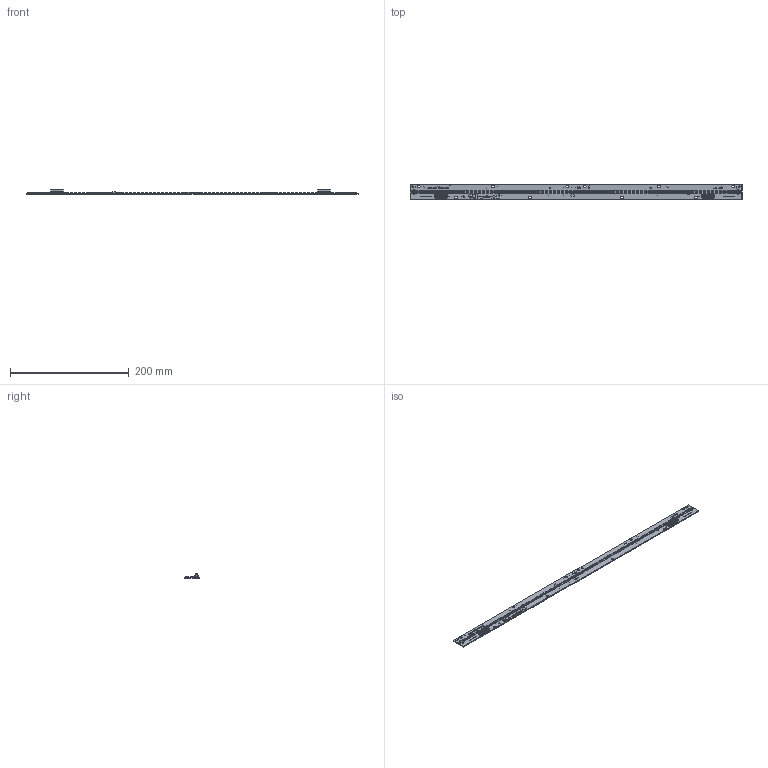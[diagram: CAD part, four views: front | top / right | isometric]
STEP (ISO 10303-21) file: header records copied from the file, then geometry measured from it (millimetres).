
FILE_DESCRIPTION (( 'STEP AP203' ), '1' );
FILE_NAME ('24.700.022.02 B PCBA 2 FOOT LUMENETIX TOP CONNECTOR.STEP', '2017-01-10T00:18:50', ( 'Rob' ), ( '' ), 'SwSTEP 2.0', 'SolidWorks 2016', '' );
FILE_SCHEMA (( 'CONFIG_CONTROL_DESIGN' ));
Length unit declared in the file: millimetre
Products named in the file (8): 22_700_022_01_REVA_REVIEW_102616A emn file; 67.700.002.02 A LTM2 INSULATOR PAD 2FT LX; 24.700.022.02 B PCBA 2 FOOT LUMENETIX TOP CONNECTOR; 22.700.022.01 1 PCBA 2 FOOT LUMENETIX; lumileds 3535L; TEST PADS; DIRECTION ARROW; 462.038 16 PIN CONNECTOR 8-188275-6
Assembly tree (92 placements, depth 2):
  24.700.022.02 B PCBA 2 FOOT LUMENETIX TOP CONNECTOR
    22.700.022.01 1 PCBA 2 FOOT LUMENETIX
    lumileds 3535L  x84
    TEST PADS
    DIRECTION ARROW  x2
    462.038 16 PIN CONNECTOR 8-188275-6  x2
    22_700_022_01_REVA_REVIEW_102616A emn file
    67.700.002.02 A LTM2 INSULATOR PAD 2FT LX
Bounding box: 560 x 24 x 7.03 mm (x, y, z)
Volume: 46597.7 mm3; surface area: 92311.5 mm2
Topology: 429 solids, 429 shells, 6022 faces, 15488 edges, 10324 vertices
Faces by surface type: plane 3638, cylinder 2384
Entity records: 113639 total; most frequent: DIRECTION 19871, CARTESIAN_POINT 18563, ORIENTED_EDGE 18278, EDGE_CURVE 9139, AXIS2_PLACEMENT_3D 7400, VERTEX_POINT 6092, EDGE_LOOP 5107, VECTOR 5071
